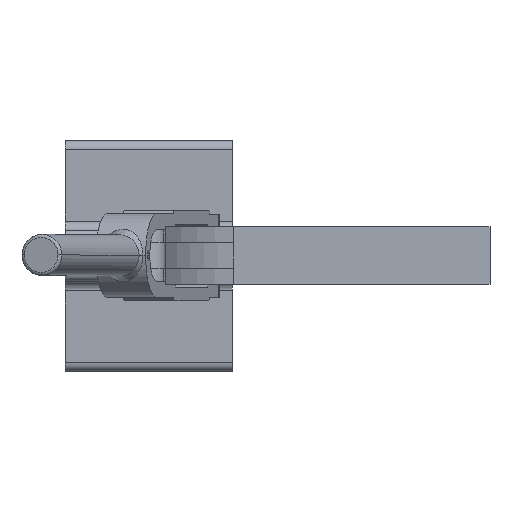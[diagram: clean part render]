
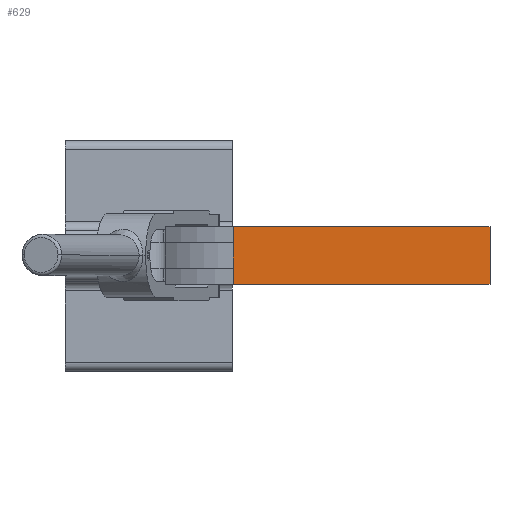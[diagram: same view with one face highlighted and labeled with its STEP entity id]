
A CAD part, top view. The second image highlights one B-rep face of the part: STEP entity #629.
In plain terms, the highlighted planar face has unit normal (0, 0, 1).
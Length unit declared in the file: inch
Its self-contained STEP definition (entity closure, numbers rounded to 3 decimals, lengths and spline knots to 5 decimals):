
#629 = ADVANCED_FACE( '', ( #847 ), #848, .T. );
#847 = FACE_OUTER_BOUND( '', #1249, .T. );
#848 = PLANE( '', #1250 );
#1249 = EDGE_LOOP( '', ( #1814, #1815, #1816, #1817, #1818, #1819 ) );
#1250 = AXIS2_PLACEMENT_3D( '', #1820, #1821, #1822 );
#1814 = ORIENTED_EDGE( '', *, *, #3158, .F. );
#1815 = ORIENTED_EDGE( '', *, *, #3098, .F. );
#1816 = ORIENTED_EDGE( '', *, *, #3157, .F. );
#1817 = ORIENTED_EDGE( '', *, *, #3154, .F. );
#1818 = ORIENTED_EDGE( '', *, *, #3152, .T. );
#1819 = ORIENTED_EDGE( '', *, *, #3159, .T. );
#1820 = CARTESIAN_POINT( '', ( 4.13085, 0.125, 3.04402 ) );
#1821 = DIRECTION( '', ( 0., 0., 1. ) );
#1822 = DIRECTION( '', ( 1., 0., 0. ) );
#3098 = EDGE_CURVE( '', #3575, #3578, #3579, .T. );
#3152 = EDGE_CURVE( '', #3671, #3669, #3672, .T. );
#3154 = EDGE_CURVE( '', #3671, #3674, #3675, .T. );
#3157 = EDGE_CURVE( '', #3674, #3575, #3678, .T. );
#3158 = EDGE_CURVE( '', #3578, #3679, #3680, .T. );
#3159 = EDGE_CURVE( '', #3669, #3679, #3681, .T. );
#3575 = VERTEX_POINT( '', #4342 );
#3578 = VERTEX_POINT( '', #4345 );
#3579 = LINE( '', #4346, #4347 );
#3669 = VERTEX_POINT( '', #4509 );
#3671 = VERTEX_POINT( '', #4512 );
#3672 = LINE( '', #4513, #4514 );
#3674 = VERTEX_POINT( '', #4516 );
#3675 = LINE( '', #4517, #4518 );
#3678 = B_SPLINE_CURVE_WITH_KNOTS( '', 3, ( #4521, #4522, #4523, #4524 ), .UNSPECIFIED., .F., .F., ( 4, 4 ), ( 0., 1. ), .UNSPECIFIED. );
#3679 = VERTEX_POINT( '', #4525 );
#3680 = LINE( '', #4526, #4527 );
#3681 = LINE( '', #4528, #4529 );
#4342 = CARTESIAN_POINT( '', ( 1.63103, 0.125, 3.04402 ) );
#4345 = CARTESIAN_POINT( '', ( 1.63101, 0.28125, 3.04402 ) );
#4346 = CARTESIAN_POINT( '', ( 1.63101, 0.125, 3.04402 ) );
#4347 = VECTOR( '', #5492, 1. );
#4509 = CARTESIAN_POINT( '', ( 4.13085, -0.28125, 3.04402 ) );
#4512 = CARTESIAN_POINT( '', ( 1.63101, -0.28125, 3.04402 ) );
#4513 = CARTESIAN_POINT( '', ( 1.63101, -0.28125, 3.04402 ) );
#4514 = VECTOR( '', #5563, 1. );
#4516 = CARTESIAN_POINT( '', ( 1.63103, -0.125, 3.04402 ) );
#4517 = CARTESIAN_POINT( '', ( 1.63101, -0.28125, 3.04402 ) );
#4518 = VECTOR( '', #5567, 1. );
#4521 = CARTESIAN_POINT( '', ( 1.63102, -0.125, 3.04402 ) );
#4522 = CARTESIAN_POINT( '', ( 1.63102, -0.04167, 3.04402 ) );
#4523 = CARTESIAN_POINT( '', ( 1.63102, 0.04167, 3.04402 ) );
#4524 = CARTESIAN_POINT( '', ( 1.63102, 0.125, 3.04402 ) );
#4525 = CARTESIAN_POINT( '', ( 4.13085, 0.28125, 3.04402 ) );
#4526 = CARTESIAN_POINT( '', ( 1.63101, 0.28125, 3.04402 ) );
#4527 = VECTOR( '', #5574, 1. );
#4528 = CARTESIAN_POINT( '', ( 4.13085, -0.28125, 3.04402 ) );
#4529 = VECTOR( '', #5575, 1. );
#5492 = DIRECTION( '', ( 0., 1., 0. ) );
#5563 = DIRECTION( '', ( 1., 0., 0. ) );
#5567 = DIRECTION( '', ( 0., 1., 0. ) );
#5574 = DIRECTION( '', ( 1., 0., 0. ) );
#5575 = DIRECTION( '', ( 0., 1., 0. ) );
